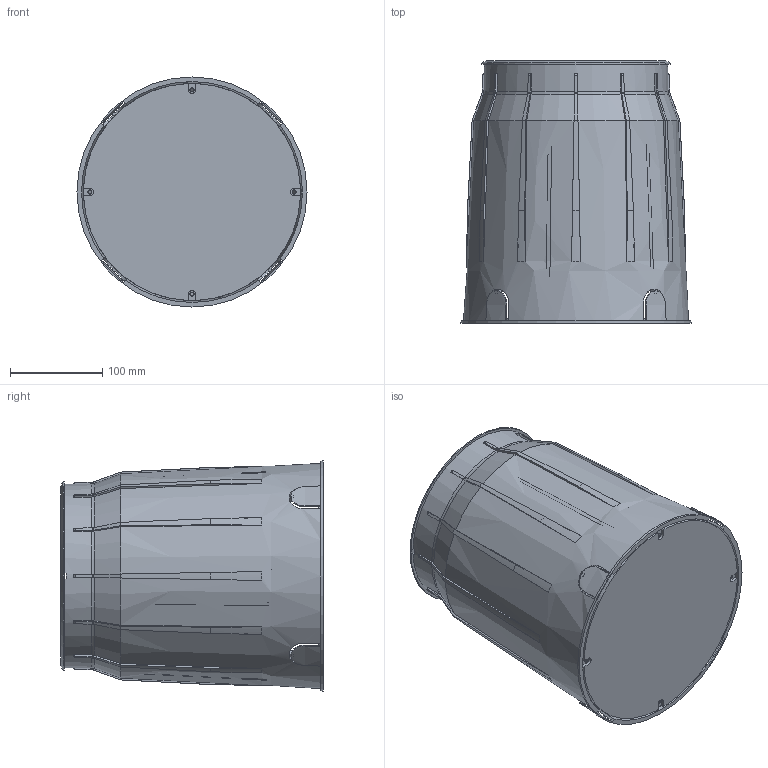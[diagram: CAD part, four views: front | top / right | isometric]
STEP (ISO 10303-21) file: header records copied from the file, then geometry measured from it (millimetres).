
FILE_DESCRIPTION (( 'STEP AP214' ), '1' );
FILE_NAME ('a_TERRA MEDIUM HP SKIN assy.STEP', '2022-09-16T08:17:07', ( '' ), ( '' ), 'SwSTEP 2.0', 'SolidWorks 2022', '' );
FILE_SCHEMA (( 'AUTOMOTIVE_DESIGN' ));
Length unit declared in the file: millimetre
Products named in the file (1): a_TERRA MEDIUM HP SKIN assy
Bounding box: 250 x 285.2 x 250 mm (x, y, z)
Surface area: 574441.6 mm2 (no closed solid volume)
Topology: 0 solids, 11 shells, 242 faces, 961 edges, 696 vertices
Faces by surface type: cone 90, plane 76, torus 36, cylinder 27, bspline 13
Full cylindrical faces by diameter (mm): 4.6 x4, 170 x1, 205 x1, 235.884 x1
Entity records: 14726 total; most frequent: CARTESIAN_POINT 5000, ORIENTED_EDGE 1585, DIRECTION 1215, EDGE_CURVE 937, VERTEX_POINT 688, AXIS2_PLACEMENT_3D 513, B_SPLINE_CURVE_WITH_KNOTS 419, CIRCLE 283
